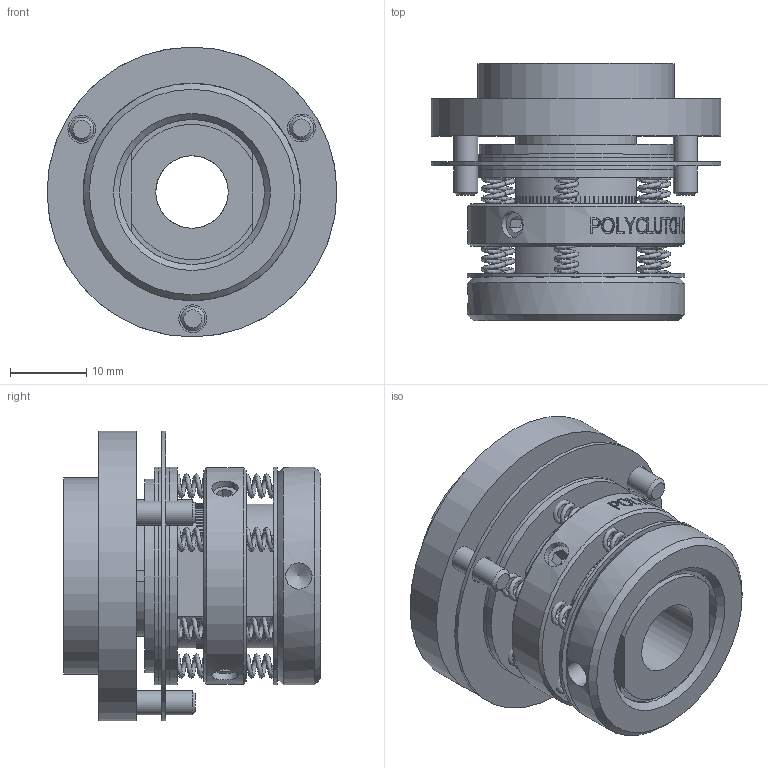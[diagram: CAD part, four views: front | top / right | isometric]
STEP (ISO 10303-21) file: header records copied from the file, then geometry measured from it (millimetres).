
FILE_DESCRIPTION((''),'2;1');
FILE_NAME('P:\Public\3-D CLUTCH ASSEMBLY FILES\PAO24\PAO24.stp','2012-04-09T09:54:33',('todlob'),(''),'Autodesk Inventor 2011','Autodesk Inventor 2011','');
FILE_SCHEMA(('AUTOMOTIVE_DESIGN { 1 0 10303 214 1 1 1 1 }'));
Length unit declared in the file: inch
Products named in the file (15): PAO24; P2411-4; S2419; S2415; S2421; S2438; S2413; P2417-6A; P2439; S2414F; S2440; P2409; P2423; Hexagon Socket Set Screw - Flat Point - Inch 8-36 UNF x 0.32; 6-8-8
Assembly tree (23 placements, depth 2):
  PAO24
    P2411-4
    S2419
    S2415
    S2421  x2
    S2438
    S2413
    P2417-6A
    P2439
    S2414F  x6
    S2440
    P2409
    P2423  x3
    Hexagon Socket Set Screw - Flat Point - Inch 8-36 UNF x 0.32  x2
    6-8-8
Bounding box: 38.1 x 33.81 x 38.1 mm (x, y, z)
Volume: 17749.8 mm3; surface area: 18220.6 mm2
Topology: 23 solids, 23 shells, 710 faces, 1812 edges, 1192 vertices
Faces by surface type: plane 457, bspline 106, cylinder 88, cone 41, sphere 18
Full cylindrical faces by diameter (mm): 2.439 x6, 3.175 x6, 3.454 x3, 3.658 x3, 4.166 x2, 9.525 x2, 12.7 x2, 15.9 x1, 19.05 x2, 19.126 x2, 20.625 x1, 25.4 x1, 25.781 x1, 28.575 x7, 38.1 x2
Entity records: 46430 total; most frequent: CARTESIAN_POINT 30818, ORIENTED_EDGE 3158, DIRECTION 2792, EDGE_CURVE 1579, VERTEX_POINT 1088, AXIS2_PLACEMENT_3D 949, VECTOR 894, LINE 894
